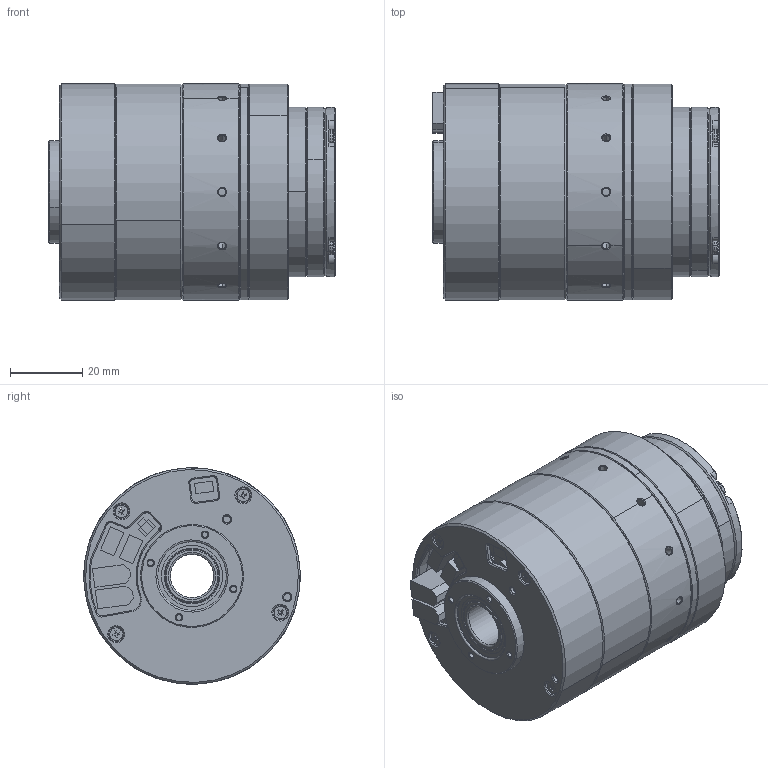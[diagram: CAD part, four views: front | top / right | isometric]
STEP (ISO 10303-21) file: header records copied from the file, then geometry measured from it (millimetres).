
FILE_DESCRIPTION (( 'STEP AP203' ), '1' );
FILE_NAME ('CRA-RI50-60-PRO-2-xxx-B-B0.step', '2024-07-31T06:42:51', ( '' ), ( '' ), 'SwSTEP 2.0', 'SolidWorks 2021', '' );
FILE_SCHEMA (( 'CONFIG_CONTROL_DESIGN' ));
Length unit declared in the file: millimetre
Products named in the file (1): CRA-RI50-60-PRO-2-xxx-B-B0
Bounding box: 79.5 x 60 x 60 mm (x, y, z)
Surface area: 39194.5 mm2 (no closed solid volume)
Topology: 0 solids, 82 shells, 944 faces, 3409 edges, 2470 vertices
Faces by surface type: plane 357, cylinder 303, cone 236, torus 48
Entity records: 40825 total; most frequent: CARTESIAN_POINT 11912, DIRECTION 6197, ORIENTED_EDGE 5185, EDGE_CURVE 3395, VERTEX_POINT 2470, AXIS2_PLACEMENT_3D 2278, LINE 1641, VECTOR 1641
